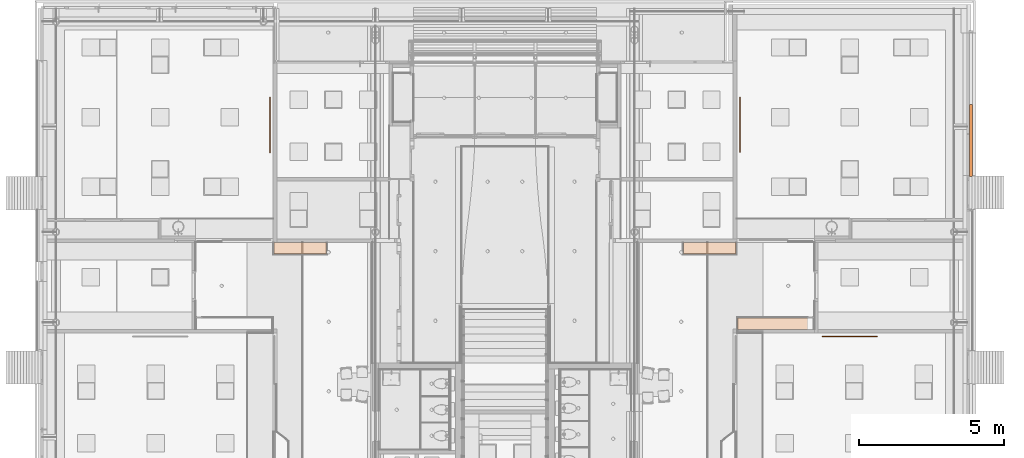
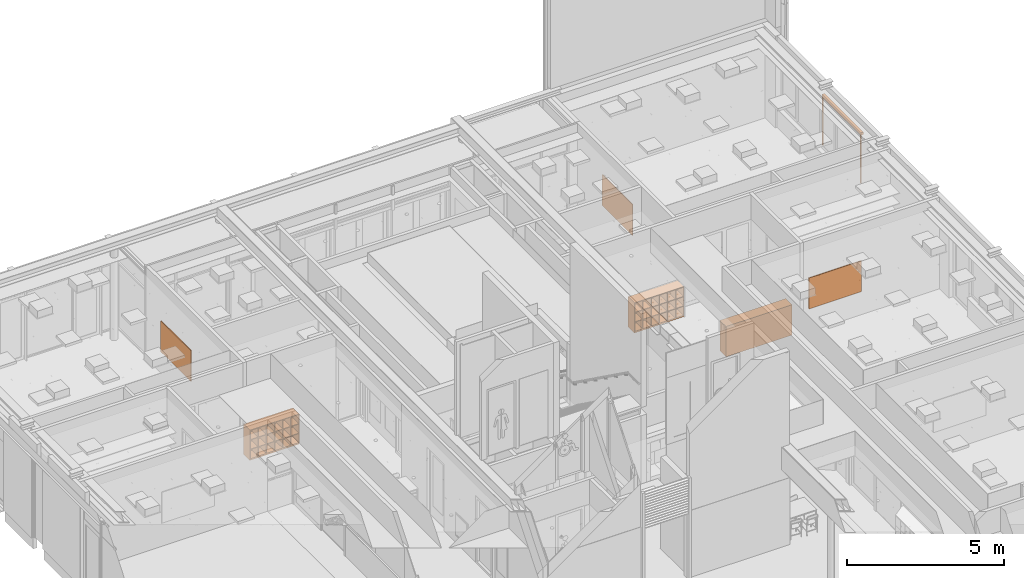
# One storey, part 336 of 347: 7 proxies.
"""IFC2X3 building model written with IfcOpenShell, lengths in millimetres."""

from ifc_helpers import new_model, entity, si_unit, converted_unit, derived_unit, money_unit, direction, frame, origin_with_axes, place, context, subcontext, project, spatial, open_shell, faceted_brep, surface_model, source, transform, mapped, type_object, type_shapes, element, save


model = new_model("IFC2X3")

# Units and contexts
model_context = context("Model", 3, precision=0.01, world=origin_with_axes(), true_north=direction((0.0, 1.0)))
plan_context = context("Plan", 3, precision=0.01, world=origin_with_axes(), true_north=direction((0.0, 1.0)))
body_context = subcontext(model_context, "Body", "Model", "MODEL_VIEW")
ifc_project = project(units=[si_unit("LENGTHUNIT", "METRE", prefix="MILLI"), si_unit("AREAUNIT", "SQUARE_METRE"), si_unit("VOLUMEUNIT", "CUBIC_METRE"), converted_unit("PLANEANGLEUNIT", "DEGREE", entity("IfcPlaneAngleMeasure", 0.0174532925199), si_unit("PLANEANGLEUNIT", "RADIAN"), dimensions=[0, 0, 0, 0, 0, 0, 0]), money_unit("EUR"), converted_unit("TIMEUNIT", "Year", entity("IfcTimeMeasure", 31556926.0), si_unit("TIMEUNIT", "SECOND"), dimensions=[0, 0, 1, 0, 0, 0, 0]), si_unit("MASSUNIT", "GRAM", prefix="KILO"), si_unit("THERMODYNAMICTEMPERATUREUNIT", "DEGREE_CELSIUS"), si_unit("LUMINOUSINTENSITYUNIT", "LUMEN"), si_unit("ENERGYUNIT", "JOULE", prefix="MEGA"), derived_unit("THERMALCONDUCTANCEUNIT", [(si_unit("POWERUNIT", "WATT"), 1), (si_unit("LENGTHUNIT", "METRE"), -1), (si_unit("THERMODYNAMICTEMPERATUREUNIT", "KELVIN"), -1)]), derived_unit("SPECIFICHEATCAPACITYUNIT", [(si_unit("ENERGYUNIT", "JOULE"), 1), (si_unit("MASSUNIT", "GRAM", prefix="KILO"), -1), (si_unit("THERMODYNAMICTEMPERATUREUNIT", "KELVIN"), -1)]), derived_unit("MASSDENSITYUNIT", [(si_unit("MASSUNIT", "GRAM", prefix="KILO"), 1), (si_unit("VOLUMEUNIT", "CUBIC_METRE"), -1)])], contexts=[model_context, plan_context])

# Site, building, storey
site_placement = place(None, origin_with_axes())
site = spatial("IfcSite", under=ifc_project, at=site_placement, Name="Site", CompositionType="ELEMENT")
building_placement = place(site_placement, origin_with_axes())
building = spatial("IfcBuilding", under=site, at=building_placement, Name="Naam gebouw", CompositionType="ELEMENT")
storey_placement = place(building_placement, origin_with_axes())
storey = spatial("IfcBuildingStorey", under=building, at=storey_placement, Name="begane grond", CompositionType="ELEMENT", Elevation=0.0)

# Proxies
building_element_proxy_type_1 = type_object("IfcBuildingElementProxyType", Name="Digitaal bord 25", PredefinedType="NOTDEFINED")
shared_shape_1 = source(origin_with_axes(), body_context, "Body", "SurfaceModel", [
    faceted_brep([(0.0, 0.0, 1000.0), (1930.0, 0.0, 1000.0), (1930.0, -30.0, 1000.0), (0.0, -30.0, 1000.0), (0.0, 0.0, 2185.0), (4.3933982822, 0.0, 2195.60660172), (15.0, 0.0, 2200.0), (1915.0, 0.0, 2200.0), (1925.60660172, 0.0, 2195.60660172), (1930.0, 0.0, 2185.0), (20.0, 0.0, 1025.0), (1910.0, 0.0, 1025.0), (1910.0, 0.0, 2180.0), (20.0, 0.0, 2180.0), (1930.0, -30.0, 2185.0), (1925.60660172, -30.0, 2195.60660172), (1915.0, -30.0, 2200.0), (15.0, -30.0, 2200.0), (4.3933982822, -30.0, 2195.60660172), (0.0, -30.0, 2185.0), (20.0, -30.0, 1025.0), (20.0, -30.0, 2180.0), (1910.0, -30.0, 2180.0), (1910.0, -30.0, 1025.0)], [[[0, 1, 2, 3]], [[0, 4, 5, 6, 7, 8, 9, 1], [10, 11, 12, 13]], [[1, 9, 14, 2]], [[3, 2, 14, 15, 16, 17, 18, 19], [20, 21, 22, 23]], [[4, 0, 3, 19]], [[5, 4, 19, 18]], [[6, 5, 18, 17]], [[7, 6, 17, 16]], [[8, 7, 16, 15]], [[9, 8, 15, 14]], [[11, 10, 20, 23]], [[12, 11, 23, 22]], [[13, 12, 22, 21]], [[10, 13, 21, 20]]]),
    faceted_brep([(20.0, 0.0, 1025.0), (1910.0, 0.0, 1025.0), (1910.0, -29.0, 1025.0), (20.0, -29.0, 1025.0), (20.0, 0.0, 2180.0), (1910.0, 0.0, 2180.0), (1910.0, -29.0, 2180.0), (20.0, -29.0, 2180.0)], [[[0, 1, 2, 3]], [[0, 4, 5, 1]], [[1, 5, 6, 2]], [[3, 2, 6, 7]], [[4, 0, 3, 7]], [[5, 4, 7, 6]]]),
    surface_model("IfcShellBasedSurfaceModel", [(20.0, -30.0, 1025.0), (1910.0, -30.0, 1025.0), (1910.0, -30.0, 2180.0), (20.0, -30.0, 2180.0)], [open_shell([[[0, 1, 2, 3]]])]),
])
type_shapes(building_element_proxy_type_1, [shared_shape_1])
for number, where, z_axis, x_axis, name in (
    (1, (51007.443853, 35737.5, 0.0), (0.0, 0.0, 1.0), (1.0, 0.0, 0.0), "82_DiGi-bord"),
    (2, (31975.0, 43983.7547682, 0.0), (0.0, 0.0, 1.0), (0.0, -1.0, 0.0), "82_DiGi-bord"),
    (3, (48175.0, 42058.8670622, 0.0), (0.0, 0.0, 1.0), (0.0, 1.0, 0.0), "82_DiGi-bord"),
):
    element("IfcBuildingElementProxy", number, at=place(storey_placement, frame(where, z_axis=z_axis, x_axis=x_axis)), inside=storey, type_object=building_element_proxy_type_1, Name=name, context=body_context, shape_type="MappedRepresentation", body=[
        mapped(shared_shape_1, transform((0.0, 0.0, 0.0))),
    ])
building_element_proxy_type_2 = type_object("IfcBuildingElementProxyType", Name="Screen 25 KM", PredefinedType="NOTDEFINED")
shared_shape_2 = source(origin_with_axes(), body_context, "Body", "SurfaceModel", [
    faceted_brep([(0.0, 0.0, 0.0), (0.0, 0.0, 1885.0), (0.0, -28.0, 1885.0), (0.0, -28.0, 0.0), (-38.0, 0.0, 0.0), (-38.0, 0.0, 1885.0), (-38.0, -4.0, 1885.0), (-35.0, -4.0, 1885.0), (-35.0, -3.0, 1885.0), (-3.0, -3.0, 1885.0), (-3.0, -25.0, 1885.0), (-35.0, -25.0, 1885.0), (-35.0, -24.0, 1885.0), (-38.0, -24.0, 1885.0), (-38.0, -28.0, 1885.0), (-38.0, -28.0, 0.0), (-38.0, -24.0, 0.0), (-35.0, -24.0, 0.0), (-35.0, -25.0, 0.0), (-3.0, -25.0, 0.0), (-3.0, -3.0, 0.0), (-35.0, -3.0, 0.0), (-35.0, -4.0, 0.0), (-38.0, -4.0, 0.0)], [[[0, 1, 2, 3]], [[4, 5, 1, 0]], [[1, 5, 6, 7, 8, 9, 10, 11, 12, 13, 14, 2]], [[3, 2, 14, 15]], [[0, 3, 15, 16, 17, 18, 19, 20, 21, 22, 23, 4]], [[23, 6, 5, 4]], [[22, 7, 6, 23]], [[21, 8, 7, 22]], [[20, 9, 8, 21]], [[19, 10, 9, 20]], [[18, 11, 10, 19]], [[17, 12, 11, 18]], [[16, 13, 12, 17]], [[15, 14, 13, 16]]]),
    faceted_brep([(-2475.00000346, 0.0, 0.0), (-2475.00000346, -28.0, 0.0), (-2475.00000346, -28.0, 1885.0), (-2475.00000346, 0.0, 1885.0), (-2437.00000346, 0.0, 0.0), (-2437.00000346, -4.0, 0.0), (-2440.00000346, -4.0, 0.0), (-2440.00000346, -3.0, 0.0), (-2472.00000346, -3.0, 0.0), (-2472.00000346, -25.0, 0.0), (-2440.00000346, -25.0, 0.0), (-2440.00000346, -24.0, 0.0), (-2437.00000346, -24.0, 0.0), (-2437.00000346, -28.0, 0.0), (-2437.00000346, -28.0, 1885.0), (-2437.00000346, -24.0, 1885.0), (-2440.00000346, -24.0, 1885.0), (-2440.00000346, -25.0, 1885.0), (-2472.00000346, -25.0, 1885.0), (-2472.00000346, -3.0, 1885.0), (-2440.00000346, -3.0, 1885.0), (-2440.00000346, -4.0, 1885.0), (-2437.00000346, -4.0, 1885.0), (-2437.00000346, 0.0, 1885.0)], [[[0, 1, 2, 3]], [[0, 4, 5, 6, 7, 8, 9, 10, 11, 12, 13, 1]], [[1, 13, 14, 2]], [[3, 2, 14, 15, 16, 17, 18, 19, 20, 21, 22, 23]], [[4, 0, 3, 23]], [[5, 4, 23, 22]], [[6, 5, 22, 21]], [[7, 6, 21, 20]], [[8, 7, 20, 19]], [[9, 8, 19, 18]], [[10, 9, 18, 17]], [[11, 10, 17, 16]], [[12, 11, 16, 15]], [[13, 12, 15, 14]]]),
    surface_model("IfcShellBasedSurfaceModel", [(0.0, 0.0, 1980.0), (0.0, -95.0, 1980.0), (0.0, -95.0, 1885.0), (0.0, 0.0, 1885.0)], [open_shell([[[0, 1, 2, 3]]])]),
    surface_model("IfcShellBasedSurfaceModel", [(-0.01, 0.0, 1980.0), (-2474.99000346, 0.0, 1980.0), (-2474.99000346, -95.0, 1980.0), (-0.00999999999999, -95.0, 1980.0), (-0.01, 0.0, 1888.0), (-2474.99000346, 0.0, 1888.0), (-2474.99000346, -6.0, 1888.0), (-2474.99000346, -6.0, 1891.0), (-2474.99000346, -3.0, 1891.0), (-2474.99000346, -3.0, 1977.0), (-2474.99000346, -92.0, 1977.0), (-2474.99000346, -92.0, 1888.0), (-2474.99000346, -28.0, 1888.0), (-2474.99000346, -28.0, 1882.0), (-2474.99000346, -31.0, 1882.0), (-2474.99000346, -31.0, 1885.0), (-2474.99000346, -95.0, 1885.0), (-0.01, -95.0, 1885.0), (-0.01, -31.0, 1885.0), (-0.01, -31.0, 1882.0), (-0.01, -28.0, 1882.0), (-0.01, -28.0, 1888.0), (-0.01, -92.0, 1888.0), (-0.00999999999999, -92.0, 1977.0), (-0.01, -3.0, 1977.0), (-0.01, -3.0, 1891.0), (-0.01, -6.0, 1891.0), (-0.01, -6.0, 1888.0)], [open_shell([[[0, 1, 2, 3]], [[4, 5, 1, 0]], [[1, 5, 6, 7, 8, 9, 10, 11, 12, 13, 14, 15, 16, 2]], [[3, 2, 16, 17]], [[0, 3, 17, 18, 19, 20, 21, 22, 23, 24, 25, 26, 27, 4]], [[19, 14, 13, 20]], [[18, 15, 14, 19]], [[17, 16, 15, 18]]])]),
    surface_model("IfcShellBasedSurfaceModel", [(-2474.99000346, 0.0, 1980.0), (-2474.99000346, -95.0, 1980.0), (-2474.99000346, -95.0, 1885.0), (-2474.99000346, 0.0, 1885.0)], [open_shell([[[0, 1, 2, 3]]])]),
])
type_shapes(building_element_proxy_type_2, [shared_shape_2])
proxy_1_placement = place(storey_placement, frame((56108.0000442, 43722.000019, 720.0), z_axis=(0.0, 0.0, 1.0), x_axis=(0.0, 1.0, 0.0)))
element("IfcBuildingElementProxy", 4, at=proxy_1_placement, inside=storey, type_object=building_element_proxy_type_2, Name="_78 garderobe", context=body_context, shape_type="MappedRepresentation", body=[
    mapped(shared_shape_2, transform((0.0, 0.0, 0.0))),
])
building_element_proxy_type_3 = type_object("IfcBuildingElementProxyType", Name="Kast modulair 25", PredefinedType="NOTDEFINED")
shared_shape_3 = source(origin_with_axes(), body_context, "Body", "Brep", [
    faceted_brep([(0.0, 10.0, 0.0), (0.0, 10.0, 50.0), (-1818.0, 10.0, 50.0), (-1818.0, 10.0, 0.0), (0.0, 400.0, 0.0), (0.0, 400.0, 50.0), (-1818.0, 400.0, 50.0), (-1818.0, 400.0, 0.0)], [[[0, 1, 2, 3]], [[4, 5, 1, 0]], [[1, 5, 6, 2]], [[3, 2, 6, 7]], [[0, 3, 7, 4]], [[7, 6, 5, 4]]]),
    faceted_brep([(-18.0, 400.0, 68.0), (-18.0, 382.0, 68.0), (-1800.0, 382.0, 68.0), (-1800.0, 400.0, 68.0), (-18.0, 400.0, 1160.0), (-18.0, 382.0, 1160.0), (-1800.0, 382.0, 1160.0), (-1800.0, 382.0, 790.0), (-1800.0, 382.0, 420.0), (-1800.0, 400.0, 420.0), (-1800.0, 400.0, 790.0), (-1800.0, 400.0, 1160.0)], [[[0, 1, 2, 3]], [[4, 5, 1, 0]], [[1, 5, 6, 7, 8, 2]], [[3, 2, 8, 9]], [[0, 3, 9, 10, 11, 4]], [[11, 6, 5, 4]], [[10, 7, 6, 11]], [[9, 8, 7, 10]]]),
    faceted_brep([(-1818.0, 0.0, 50.0), (-1818.0, 400.0, 50.0), (0.0, 400.0, 50.0), (0.0, 0.0, 50.0), (-1818.0, 0.0, 68.0), (-1818.0, 400.0, 68.0), (0.0, 400.0, 68.0), (0.0, 0.0, 68.0)], [[[0, 1, 2, 3]], [[0, 4, 5, 1]], [[1, 5, 6, 2]], [[2, 6, 7, 3]], [[3, 7, 4, 0]], [[7, 6, 5, 4]]]),
    faceted_brep([(-18.0, 0.0, 68.0), (-18.0, 400.0, 68.0), (0.0, 400.0, 68.0), (0.0, 0.0, 68.0), (-18.0, 0.0, 420.0), (-18.0, 400.0, 420.0), (0.0, 400.0, 420.0), (0.0, 0.0, 420.0)], [[[0, 1, 2, 3]], [[0, 4, 5, 1]], [[1, 5, 6, 2]], [[2, 6, 7, 3]], [[3, 7, 4, 0]], [[7, 6, 5, 4]]]),
    faceted_brep([(-318.0, 0.0, 68.0), (-318.0, 382.0, 68.0), (-300.0, 382.0, 68.0), (-300.0, 0.0, 68.0), (-318.0, 0.0, 420.0), (-318.0, 382.0, 420.0), (-300.0, 382.0, 420.0), (-300.0, 0.0, 420.0)], [[[0, 1, 2, 3]], [[0, 4, 5, 1]], [[1, 5, 6, 2]], [[2, 6, 7, 3]], [[3, 7, 4, 0]], [[7, 6, 5, 4]]]),
    faceted_brep([(-618.0, 0.0, 68.0), (-618.0, 382.0, 68.0), (-600.0, 382.0, 68.0), (-600.0, 0.0, 68.0), (-618.0, 0.0, 420.0), (-618.0, 382.0, 420.0), (-600.0, 382.0, 420.0), (-600.0, 0.0, 420.0)], [[[0, 1, 2, 3]], [[0, 4, 5, 1]], [[1, 5, 6, 2]], [[2, 6, 7, 3]], [[3, 7, 4, 0]], [[7, 6, 5, 4]]]),
    faceted_brep([(-918.0, 0.0, 68.0), (-918.0, 382.0, 68.0), (-900.0, 382.0, 68.0), (-900.0, 0.0, 68.0), (-918.0, 0.0, 420.0), (-918.0, 382.0, 420.0), (-900.0, 382.0, 420.0), (-900.0, 0.0, 420.0)], [[[0, 1, 2, 3]], [[0, 4, 5, 1]], [[1, 5, 6, 2]], [[2, 6, 7, 3]], [[3, 7, 4, 0]], [[7, 6, 5, 4]]]),
    faceted_brep([(-1218.0, 0.0, 68.0), (-1218.0, 382.0, 68.0), (-1200.0, 382.0, 68.0), (-1200.0, 0.0, 68.0), (-1218.0, 0.0, 420.0), (-1218.0, 382.0, 420.0), (-1200.0, 382.0, 420.0), (-1200.0, 0.0, 420.0)], [[[0, 1, 2, 3]], [[0, 4, 5, 1]], [[1, 5, 6, 2]], [[2, 6, 7, 3]], [[3, 7, 4, 0]], [[7, 6, 5, 4]]]),
    faceted_brep([(-1518.0, 0.0, 68.0), (-1518.0, 382.0, 68.0), (-1500.0, 382.0, 68.0), (-1500.0, 0.0, 68.0), (-1518.0, 0.0, 420.0), (-1518.0, 382.0, 420.0), (-1500.0, 382.0, 420.0), (-1500.0, 0.0, 420.0)], [[[0, 1, 2, 3]], [[0, 4, 5, 1]], [[1, 5, 6, 2]], [[2, 6, 7, 3]], [[3, 7, 4, 0]], [[7, 6, 5, 4]]]),
    faceted_brep([(-1818.0, 0.0, 68.0), (-1818.0, 400.0, 68.0), (-1800.0, 400.0, 68.0), (-1800.0, 0.0, 68.0), (-1818.0, 0.0, 420.0), (-1818.0, 400.0, 420.0), (-1800.0, 400.0, 420.0), (-1800.0, 0.0, 420.0)], [[[0, 1, 2, 3]], [[0, 4, 5, 1]], [[1, 5, 6, 2]], [[2, 6, 7, 3]], [[3, 7, 4, 0]], [[7, 6, 5, 4]]]),
    faceted_brep([(-1800.0, 400.0, 420.0), (-1818.0, 400.0, 420.0), (-1818.0, 400.0, 438.0), (-1800.0, 400.0, 438.0), (-1800.0, 382.0, 420.0), (-18.0, 382.0, 420.0), (-18.0, 400.0, 420.0), (0.0, 400.0, 420.0), (0.0, 0.0, 420.0), (-1818.0, 0.0, 420.0), (-1818.0, 0.0, 438.0), (-18.0, 382.0, 438.0), (-1800.0, 382.0, 438.0), (0.0, 0.0, 438.0), (0.0, 400.0, 438.0), (-18.0, 400.0, 438.0)], [[[0, 1, 2, 3]], [[4, 5, 6, 7, 8, 9, 1, 0]], [[1, 9, 10, 2]], [[11, 12, 3, 2, 10, 13, 14, 15]], [[12, 4, 0, 3]], [[11, 5, 4, 12]], [[6, 5, 11, 15]], [[15, 14, 7, 6]], [[8, 7, 14, 13]], [[9, 8, 13, 10]]]),
    faceted_brep([(-1800.0, 400.0, 790.0), (-1818.0, 400.0, 790.0), (-1818.0, 400.0, 808.0), (-1800.0, 400.0, 808.0), (-1800.0, 382.0, 790.0), (-18.0, 382.0, 790.0), (-18.0, 400.0, 790.0), (0.0, 400.0, 790.0), (0.0, 0.0, 790.0), (-1818.0, 0.0, 790.0), (-1818.0, 0.0, 808.0), (-18.0, 382.0, 808.0), (-1800.0, 382.0, 808.0), (0.0, 0.0, 808.0), (0.0, 400.0, 808.0), (-18.0, 400.0, 808.0)], [[[0, 1, 2, 3]], [[4, 5, 6, 7, 8, 9, 1, 0]], [[1, 9, 10, 2]], [[11, 12, 3, 2, 10, 13, 14, 15]], [[12, 4, 0, 3]], [[11, 5, 4, 12]], [[6, 5, 11, 15]], [[15, 14, 7, 6]], [[8, 7, 14, 13]], [[9, 8, 13, 10]]]),
    faceted_brep([(-18.0, 0.0, 438.0), (-18.0, 400.0, 438.0), (0.0, 400.0, 438.0), (0.0, 0.0, 438.0), (-18.0, 0.0, 790.0), (-18.0, 400.0, 790.0), (0.0, 400.0, 790.0), (0.0, 0.0, 790.0)], [[[0, 1, 2, 3]], [[0, 4, 5, 1]], [[1, 5, 6, 2]], [[2, 6, 7, 3]], [[3, 7, 4, 0]], [[7, 6, 5, 4]]]),
    faceted_brep([(-318.0, 0.0, 438.0), (-318.0, 382.0, 438.0), (-300.0, 382.0, 438.0), (-300.0, 0.0, 438.0), (-318.0, 0.0, 790.0), (-318.0, 382.0, 790.0), (-300.0, 382.0, 790.0), (-300.0, 0.0, 790.0)], [[[0, 1, 2, 3]], [[0, 4, 5, 1]], [[1, 5, 6, 2]], [[2, 6, 7, 3]], [[3, 7, 4, 0]], [[7, 6, 5, 4]]]),
    faceted_brep([(-618.0, 0.0, 438.0), (-618.0, 382.0, 438.0), (-600.0, 382.0, 438.0), (-600.0, 0.0, 438.0), (-618.0, 0.0, 790.0), (-618.0, 382.0, 790.0), (-600.0, 382.0, 790.0), (-600.0, 0.0, 790.0)], [[[0, 1, 2, 3]], [[0, 4, 5, 1]], [[1, 5, 6, 2]], [[2, 6, 7, 3]], [[3, 7, 4, 0]], [[7, 6, 5, 4]]]),
    faceted_brep([(-918.0, 0.0, 438.0), (-918.0, 382.0, 438.0), (-900.0, 382.0, 438.0), (-900.0, 0.0, 438.0), (-918.0, 0.0, 790.0), (-918.0, 382.0, 790.0), (-900.0, 382.0, 790.0), (-900.0, 0.0, 790.0)], [[[0, 1, 2, 3]], [[0, 4, 5, 1]], [[1, 5, 6, 2]], [[2, 6, 7, 3]], [[3, 7, 4, 0]], [[7, 6, 5, 4]]]),
    faceted_brep([(-1218.0, 0.0, 438.0), (-1218.0, 382.0, 438.0), (-1200.0, 382.0, 438.0), (-1200.0, 0.0, 438.0), (-1218.0, 0.0, 790.0), (-1218.0, 382.0, 790.0), (-1200.0, 382.0, 790.0), (-1200.0, 0.0, 790.0)], [[[0, 1, 2, 3]], [[0, 4, 5, 1]], [[1, 5, 6, 2]], [[2, 6, 7, 3]], [[3, 7, 4, 0]], [[7, 6, 5, 4]]]),
    faceted_brep([(-1518.0, 0.0, 438.0), (-1518.0, 382.0, 438.0), (-1500.0, 382.0, 438.0), (-1500.0, 0.0, 438.0), (-1518.0, 0.0, 790.0), (-1518.0, 382.0, 790.0), (-1500.0, 382.0, 790.0), (-1500.0, 0.0, 790.0)], [[[0, 1, 2, 3]], [[0, 4, 5, 1]], [[1, 5, 6, 2]], [[2, 6, 7, 3]], [[3, 7, 4, 0]], [[7, 6, 5, 4]]]),
    faceted_brep([(-1818.0, 0.0, 438.0), (-1818.0, 400.0, 438.0), (-1800.0, 400.0, 438.0), (-1800.0, 0.0, 438.0), (-1818.0, 0.0, 790.0), (-1818.0, 400.0, 790.0), (-1800.0, 400.0, 790.0), (-1800.0, 0.0, 790.0)], [[[0, 1, 2, 3]], [[0, 4, 5, 1]], [[1, 5, 6, 2]], [[2, 6, 7, 3]], [[3, 7, 4, 0]], [[7, 6, 5, 4]]]),
    faceted_brep([(0.0, 0.0, 1160.0), (0.0, 0.0, 1178.0), (-1818.0, 0.0, 1178.0), (-1818.0, 0.0, 1160.0), (0.0, 400.0, 1160.0), (0.0, 400.0, 1178.0), (-1818.0, 400.0, 1178.0), (-1818.0, 400.0, 1160.0)], [[[0, 1, 2, 3]], [[4, 5, 1, 0]], [[1, 5, 6, 2]], [[3, 2, 6, 7]], [[0, 3, 7, 4]], [[7, 6, 5, 4]]]),
    faceted_brep([(-18.0, 0.0, 808.0), (-18.0, 400.0, 808.0), (0.0, 400.0, 808.0), (0.0, 0.0, 808.0), (-18.0, 0.0, 1160.0), (-18.0, 400.0, 1160.0), (0.0, 400.0, 1160.0), (0.0, 0.0, 1160.0)], [[[0, 1, 2, 3]], [[0, 4, 5, 1]], [[1, 5, 6, 2]], [[2, 6, 7, 3]], [[3, 7, 4, 0]], [[7, 6, 5, 4]]]),
    faceted_brep([(-318.0, 0.0, 808.0), (-318.0, 382.0, 808.0), (-300.0, 382.0, 808.0), (-300.0, 0.0, 808.0), (-318.0, 0.0, 1160.0), (-318.0, 382.0, 1160.0), (-300.0, 382.0, 1160.0), (-300.0, 0.0, 1160.0)], [[[0, 1, 2, 3]], [[0, 4, 5, 1]], [[1, 5, 6, 2]], [[2, 6, 7, 3]], [[3, 7, 4, 0]], [[7, 6, 5, 4]]]),
    faceted_brep([(-618.0, 0.0, 808.0), (-618.0, 382.0, 808.0), (-600.0, 382.0, 808.0), (-600.0, 0.0, 808.0), (-618.0, 0.0, 1160.0), (-618.0, 382.0, 1160.0), (-600.0, 382.0, 1160.0), (-600.0, 0.0, 1160.0)], [[[0, 1, 2, 3]], [[0, 4, 5, 1]], [[1, 5, 6, 2]], [[2, 6, 7, 3]], [[3, 7, 4, 0]], [[7, 6, 5, 4]]]),
    faceted_brep([(-918.0, 0.0, 808.0), (-918.0, 382.0, 808.0), (-900.0, 382.0, 808.0), (-900.0, 0.0, 808.0), (-918.0, 0.0, 1160.0), (-918.0, 382.0, 1160.0), (-900.0, 382.0, 1160.0), (-900.0, 0.0, 1160.0)], [[[0, 1, 2, 3]], [[0, 4, 5, 1]], [[1, 5, 6, 2]], [[2, 6, 7, 3]], [[3, 7, 4, 0]], [[7, 6, 5, 4]]]),
    faceted_brep([(-1218.0, 0.0, 808.0), (-1218.0, 382.0, 808.0), (-1200.0, 382.0, 808.0), (-1200.0, 0.0, 808.0), (-1218.0, 0.0, 1160.0), (-1218.0, 382.0, 1160.0), (-1200.0, 382.0, 1160.0), (-1200.0, 0.0, 1160.0)], [[[0, 1, 2, 3]], [[0, 4, 5, 1]], [[1, 5, 6, 2]], [[2, 6, 7, 3]], [[3, 7, 4, 0]], [[7, 6, 5, 4]]]),
    faceted_brep([(-1518.0, 0.0, 808.0), (-1518.0, 382.0, 808.0), (-1500.0, 382.0, 808.0), (-1500.0, 0.0, 808.0), (-1518.0, 0.0, 1160.0), (-1518.0, 382.0, 1160.0), (-1500.0, 382.0, 1160.0), (-1500.0, 0.0, 1160.0)], [[[0, 1, 2, 3]], [[0, 4, 5, 1]], [[1, 5, 6, 2]], [[2, 6, 7, 3]], [[3, 7, 4, 0]], [[7, 6, 5, 4]]]),
    faceted_brep([(-1818.0, 0.0, 808.0), (-1818.0, 400.0, 808.0), (-1800.0, 400.0, 808.0), (-1800.0, 0.0, 808.0), (-1818.0, 0.0, 1160.0), (-1818.0, 400.0, 1160.0), (-1800.0, 400.0, 1160.0), (-1800.0, 0.0, 1160.0)], [[[0, 1, 2, 3]], [[0, 4, 5, 1]], [[1, 5, 6, 2]], [[2, 6, 7, 3]], [[3, 7, 4, 0]], [[7, 6, 5, 4]]]),
])
for number, where, z_axis, x_axis, name in (
    (5, (33915.0, 38557.5, 0.0), (0.0, 0.0, 1.0), (1.0, 0.0, 0.0), "72_72 garderobe"),
    (6, (48053.0, 38557.5, 0.0), (0.0, 0.0, 1.0), (1.0, 0.0, 0.0), "72_72 garderobe"),
):
    element("IfcBuildingElementProxy", number, at=place(storey_placement, frame(where, z_axis=z_axis, x_axis=x_axis)), inside=storey, type_object=building_element_proxy_type_3, Name=name, context=body_context, shape_type="MappedRepresentation", body=[
        mapped(shared_shape_3, transform((0.0, 0.0, 0.0))),
    ])
shared_shape_4 = source(origin_with_axes(), body_context, "Body", "Brep", [
    faceted_brep([(0.0, 10.0, 0.0), (0.0, 10.0, 50.0), (-2418.0, 10.0, 50.0), (-2418.0, 10.0, 0.0), (0.0, 400.000014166, 0.0), (0.0, 400.000014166, 50.0), (-2418.0, 400.000014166, 50.0), (-2418.0, 400.000014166, 0.0)], [[[0, 1, 2, 3]], [[4, 5, 1, 0]], [[1, 5, 6, 2]], [[3, 2, 6, 7]], [[0, 3, 7, 4]], [[7, 6, 5, 4]]]),
    faceted_brep([(-18.0, 400.000014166, 68.0), (-18.0, 382.000014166, 68.0), (-2400.0, 382.000014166, 68.0), (-2400.0, 400.000014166, 68.0), (-18.0, 400.000014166, 1160.0), (-18.0, 382.000014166, 1160.0), (-2400.0, 382.000014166, 1160.0), (-2400.0, 382.000014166, 790.0), (-2400.0, 382.000014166, 420.0), (-2400.0, 400.000014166, 420.0), (-2400.0, 400.000014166, 790.0), (-2400.0, 400.000014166, 1160.0)], [[[0, 1, 2, 3]], [[4, 5, 1, 0]], [[1, 5, 6, 7, 8, 2]], [[3, 2, 8, 9]], [[0, 3, 9, 10, 11, 4]], [[11, 6, 5, 4]], [[10, 7, 6, 11]], [[9, 8, 7, 10]]]),
    faceted_brep([(-2418.0, 0.0, 50.0), (-2418.0, 400.000014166, 50.0), (0.0, 400.000014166, 50.0), (0.0, 0.0, 50.0), (-2418.0, 0.0, 68.0), (-2418.0, 400.000014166, 68.0), (0.0, 400.000014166, 68.0), (0.0, 0.0, 68.0)], [[[0, 1, 2, 3]], [[0, 4, 5, 1]], [[1, 5, 6, 2]], [[2, 6, 7, 3]], [[3, 7, 4, 0]], [[7, 6, 5, 4]]]),
    faceted_brep([(-18.0, 0.0, 68.0), (-18.0, 400.000014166, 68.0), (0.0, 400.000014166, 68.0), (0.0, 0.0, 68.0), (-18.0, 0.0, 420.0), (-18.0, 400.000014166, 420.0), (0.0, 400.000014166, 420.0), (0.0, 0.0, 420.0)], [[[0, 1, 2, 3]], [[0, 4, 5, 1]], [[1, 5, 6, 2]], [[2, 6, 7, 3]], [[3, 7, 4, 0]], [[7, 6, 5, 4]]]),
    faceted_brep([(-318.0, 0.0, 68.0), (-318.0, 382.000014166, 68.0), (-300.0, 382.000014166, 68.0), (-300.0, 0.0, 68.0), (-318.0, 0.0, 420.0), (-318.0, 382.000014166, 420.0), (-300.0, 382.000014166, 420.0), (-300.0, 0.0, 420.0)], [[[0, 1, 2, 3]], [[0, 4, 5, 1]], [[1, 5, 6, 2]], [[2, 6, 7, 3]], [[3, 7, 4, 0]], [[7, 6, 5, 4]]]),
    faceted_brep([(-618.0, 0.0, 68.0), (-618.0, 382.000014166, 68.0), (-600.0, 382.000014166, 68.0), (-600.0, 0.0, 68.0), (-618.0, 0.0, 420.0), (-618.0, 382.000014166, 420.0), (-600.0, 382.000014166, 420.0), (-600.0, 0.0, 420.0)], [[[0, 1, 2, 3]], [[0, 4, 5, 1]], [[1, 5, 6, 2]], [[2, 6, 7, 3]], [[3, 7, 4, 0]], [[7, 6, 5, 4]]]),
    faceted_brep([(-918.0, 0.0, 68.0), (-918.0, 382.000014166, 68.0), (-900.0, 382.000014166, 68.0), (-900.0, 0.0, 68.0), (-918.0, 0.0, 420.0), (-918.0, 382.000014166, 420.0), (-900.0, 382.000014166, 420.0), (-900.0, 0.0, 420.0)], [[[0, 1, 2, 3]], [[0, 4, 5, 1]], [[1, 5, 6, 2]], [[2, 6, 7, 3]], [[3, 7, 4, 0]], [[7, 6, 5, 4]]]),
    faceted_brep([(-1218.0, 0.0, 68.0), (-1218.0, 382.000014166, 68.0), (-1200.0, 382.000014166, 68.0), (-1200.0, 0.0, 68.0), (-1218.0, 0.0, 420.0), (-1218.0, 382.000014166, 420.0), (-1200.0, 382.000014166, 420.0), (-1200.0, 0.0, 420.0)], [[[0, 1, 2, 3]], [[0, 4, 5, 1]], [[1, 5, 6, 2]], [[2, 6, 7, 3]], [[3, 7, 4, 0]], [[7, 6, 5, 4]]]),
    faceted_brep([(-1518.0, 0.0, 68.0), (-1518.0, 382.000014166, 68.0), (-1500.0, 382.000014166, 68.0), (-1500.0, 0.0, 68.0), (-1518.0, 0.0, 420.0), (-1518.0, 382.000014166, 420.0), (-1500.0, 382.000014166, 420.0), (-1500.0, 0.0, 420.0)], [[[0, 1, 2, 3]], [[0, 4, 5, 1]], [[1, 5, 6, 2]], [[2, 6, 7, 3]], [[3, 7, 4, 0]], [[7, 6, 5, 4]]]),
    faceted_brep([(-1818.0, 0.0, 68.0), (-1818.0, 382.000014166, 68.0), (-1800.0, 382.000014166, 68.0), (-1800.0, 0.0, 68.0), (-1818.0, 0.0, 420.0), (-1818.0, 382.000014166, 420.0), (-1800.0, 382.000014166, 420.0), (-1800.0, 0.0, 420.0)], [[[0, 1, 2, 3]], [[0, 4, 5, 1]], [[1, 5, 6, 2]], [[2, 6, 7, 3]], [[3, 7, 4, 0]], [[7, 6, 5, 4]]]),
    faceted_brep([(-2118.0, 0.0, 68.0), (-2118.0, 382.000014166, 68.0), (-2100.0, 382.000014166, 68.0), (-2100.0, 0.0, 68.0), (-2118.0, 0.0, 420.0), (-2118.0, 382.000014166, 420.0), (-2100.0, 382.000014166, 420.0), (-2100.0, 0.0, 420.0)], [[[0, 1, 2, 3]], [[0, 4, 5, 1]], [[1, 5, 6, 2]], [[2, 6, 7, 3]], [[3, 7, 4, 0]], [[7, 6, 5, 4]]]),
    faceted_brep([(-2418.0, 0.0, 68.0), (-2418.0, 400.000014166, 68.0), (-2400.0, 400.000014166, 68.0), (-2400.0, 0.0, 68.0), (-2418.0, 0.0, 420.0), (-2418.0, 400.000014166, 420.0), (-2400.0, 400.000014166, 420.0), (-2400.0, 0.0, 420.0)], [[[0, 1, 2, 3]], [[0, 4, 5, 1]], [[1, 5, 6, 2]], [[2, 6, 7, 3]], [[3, 7, 4, 0]], [[7, 6, 5, 4]]]),
    faceted_brep([(-2400.0, 400.000014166, 420.0), (-2418.0, 400.000014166, 420.0), (-2418.0, 400.000014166, 438.0), (-2400.0, 400.000014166, 438.0), (-2400.0, 382.000014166, 420.0), (-18.0, 382.000014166, 420.0), (-18.0, 400.000014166, 420.0), (0.0, 400.000014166, 420.0), (0.0, 0.0, 420.0), (-2418.0, 0.0, 420.0), (-2418.0, 0.0, 438.0), (-18.0, 382.000014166, 438.0), (-2400.0, 382.000014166, 438.0), (0.0, 0.0, 438.0), (0.0, 400.000014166, 438.0), (-18.0, 400.000014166, 438.0)], [[[0, 1, 2, 3]], [[4, 5, 6, 7, 8, 9, 1, 0]], [[1, 9, 10, 2]], [[11, 12, 3, 2, 10, 13, 14, 15]], [[12, 4, 0, 3]], [[11, 5, 4, 12]], [[6, 5, 11, 15]], [[15, 14, 7, 6]], [[8, 7, 14, 13]], [[9, 8, 13, 10]]]),
    faceted_brep([(-2400.0, 400.000014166, 790.0), (-2418.0, 400.000014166, 790.0), (-2418.0, 400.000014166, 808.0), (-2400.0, 400.000014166, 808.0), (-2400.0, 382.000014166, 790.0), (-18.0, 382.000014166, 790.0), (-18.0, 400.000014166, 790.0), (0.0, 400.000014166, 790.0), (0.0, 0.0, 790.0), (-2418.0, 0.0, 790.0), (-2418.0, 0.0, 808.0), (-18.0, 382.000014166, 808.0), (-2400.0, 382.000014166, 808.0), (0.0, 0.0, 808.0), (0.0, 400.000014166, 808.0), (-18.0, 400.000014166, 808.0)], [[[0, 1, 2, 3]], [[4, 5, 6, 7, 8, 9, 1, 0]], [[1, 9, 10, 2]], [[11, 12, 3, 2, 10, 13, 14, 15]], [[12, 4, 0, 3]], [[11, 5, 4, 12]], [[6, 5, 11, 15]], [[15, 14, 7, 6]], [[8, 7, 14, 13]], [[9, 8, 13, 10]]]),
    faceted_brep([(-18.0, 0.0, 438.0), (-18.0, 400.000014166, 438.0), (0.0, 400.000014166, 438.0), (0.0, 0.0, 438.0), (-18.0, 0.0, 790.0), (-18.0, 400.000014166, 790.0), (0.0, 400.000014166, 790.0), (0.0, 0.0, 790.0)], [[[0, 1, 2, 3]], [[0, 4, 5, 1]], [[1, 5, 6, 2]], [[2, 6, 7, 3]], [[3, 7, 4, 0]], [[7, 6, 5, 4]]]),
    faceted_brep([(-318.0, 0.0, 438.0), (-318.0, 382.000014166, 438.0), (-300.0, 382.000014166, 438.0), (-300.0, 0.0, 438.0), (-318.0, 0.0, 790.0), (-318.0, 382.000014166, 790.0), (-300.0, 382.000014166, 790.0), (-300.0, 0.0, 790.0)], [[[0, 1, 2, 3]], [[0, 4, 5, 1]], [[1, 5, 6, 2]], [[2, 6, 7, 3]], [[3, 7, 4, 0]], [[7, 6, 5, 4]]]),
    faceted_brep([(-618.0, 0.0, 438.0), (-618.0, 382.000014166, 438.0), (-600.0, 382.000014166, 438.0), (-600.0, 0.0, 438.0), (-618.0, 0.0, 790.0), (-618.0, 382.000014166, 790.0), (-600.0, 382.000014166, 790.0), (-600.0, 0.0, 790.0)], [[[0, 1, 2, 3]], [[0, 4, 5, 1]], [[1, 5, 6, 2]], [[2, 6, 7, 3]], [[3, 7, 4, 0]], [[7, 6, 5, 4]]]),
    faceted_brep([(-918.0, 0.0, 438.0), (-918.0, 382.000014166, 438.0), (-900.0, 382.000014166, 438.0), (-900.0, 0.0, 438.0), (-918.0, 0.0, 790.0), (-918.0, 382.000014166, 790.0), (-900.0, 382.000014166, 790.0), (-900.0, 0.0, 790.0)], [[[0, 1, 2, 3]], [[0, 4, 5, 1]], [[1, 5, 6, 2]], [[2, 6, 7, 3]], [[3, 7, 4, 0]], [[7, 6, 5, 4]]]),
    faceted_brep([(-1218.0, 0.0, 438.0), (-1218.0, 382.000014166, 438.0), (-1200.0, 382.000014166, 438.0), (-1200.0, 0.0, 438.0), (-1218.0, 0.0, 790.0), (-1218.0, 382.000014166, 790.0), (-1200.0, 382.000014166, 790.0), (-1200.0, 0.0, 790.0)], [[[0, 1, 2, 3]], [[0, 4, 5, 1]], [[1, 5, 6, 2]], [[2, 6, 7, 3]], [[3, 7, 4, 0]], [[7, 6, 5, 4]]]),
    faceted_brep([(-1518.0, 0.0, 438.0), (-1518.0, 382.000014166, 438.0), (-1500.0, 382.000014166, 438.0), (-1500.0, 0.0, 438.0), (-1518.0, 0.0, 790.0), (-1518.0, 382.000014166, 790.0), (-1500.0, 382.000014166, 790.0), (-1500.0, 0.0, 790.0)], [[[0, 1, 2, 3]], [[0, 4, 5, 1]], [[1, 5, 6, 2]], [[2, 6, 7, 3]], [[3, 7, 4, 0]], [[7, 6, 5, 4]]]),
    faceted_brep([(-1818.0, 0.0, 438.0), (-1818.0, 382.000014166, 438.0), (-1800.0, 382.000014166, 438.0), (-1800.0, 0.0, 438.0), (-1818.0, 0.0, 790.0), (-1818.0, 382.000014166, 790.0), (-1800.0, 382.000014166, 790.0), (-1800.0, 0.0, 790.0)], [[[0, 1, 2, 3]], [[0, 4, 5, 1]], [[1, 5, 6, 2]], [[2, 6, 7, 3]], [[3, 7, 4, 0]], [[7, 6, 5, 4]]]),
    faceted_brep([(-2118.0, 0.0, 438.0), (-2118.0, 382.000014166, 438.0), (-2100.0, 382.000014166, 438.0), (-2100.0, 0.0, 438.0), (-2118.0, 0.0, 790.0), (-2118.0, 382.000014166, 790.0), (-2100.0, 382.000014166, 790.0), (-2100.0, 0.0, 790.0)], [[[0, 1, 2, 3]], [[0, 4, 5, 1]], [[1, 5, 6, 2]], [[2, 6, 7, 3]], [[3, 7, 4, 0]], [[7, 6, 5, 4]]]),
    faceted_brep([(-2418.0, 0.0, 438.0), (-2418.0, 400.000014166, 438.0), (-2400.0, 400.000014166, 438.0), (-2400.0, 0.0, 438.0), (-2418.0, 0.0, 790.0), (-2418.0, 400.000014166, 790.0), (-2400.0, 400.000014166, 790.0), (-2400.0, 0.0, 790.0)], [[[0, 1, 2, 3]], [[0, 4, 5, 1]], [[1, 5, 6, 2]], [[2, 6, 7, 3]], [[3, 7, 4, 0]], [[7, 6, 5, 4]]]),
    faceted_brep([(0.0, 0.0, 1160.0), (0.0, 0.0, 1178.0), (-2418.0, 0.0, 1178.0), (-2418.0, 0.0, 1160.0), (0.0, 400.000014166, 1160.0), (0.0, 400.000014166, 1178.0), (-2418.0, 400.000014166, 1178.0), (-2418.0, 400.000014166, 1160.0)], [[[0, 1, 2, 3]], [[4, 5, 1, 0]], [[1, 5, 6, 2]], [[3, 2, 6, 7]], [[0, 3, 7, 4]], [[7, 6, 5, 4]]]),
    faceted_brep([(-18.0, 0.0, 808.0), (-18.0, 400.000014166, 808.0), (0.0, 400.000014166, 808.0), (0.0, 0.0, 808.0), (-18.0, 0.0, 1160.0), (-18.0, 400.000014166, 1160.0), (0.0, 400.000014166, 1160.0), (0.0, 0.0, 1160.0)], [[[0, 1, 2, 3]], [[0, 4, 5, 1]], [[1, 5, 6, 2]], [[2, 6, 7, 3]], [[3, 7, 4, 0]], [[7, 6, 5, 4]]]),
    faceted_brep([(-318.0, 0.0, 808.0), (-318.0, 382.000014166, 808.0), (-300.0, 382.000014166, 808.0), (-300.0, 0.0, 808.0), (-318.0, 0.0, 1160.0), (-318.0, 382.000014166, 1160.0), (-300.0, 382.000014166, 1160.0), (-300.0, 0.0, 1160.0)], [[[0, 1, 2, 3]], [[0, 4, 5, 1]], [[1, 5, 6, 2]], [[2, 6, 7, 3]], [[3, 7, 4, 0]], [[7, 6, 5, 4]]]),
    faceted_brep([(-618.0, 0.0, 808.0), (-618.0, 382.000014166, 808.0), (-600.0, 382.000014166, 808.0), (-600.0, 0.0, 808.0), (-618.0, 0.0, 1160.0), (-618.0, 382.000014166, 1160.0), (-600.0, 382.000014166, 1160.0), (-600.0, 0.0, 1160.0)], [[[0, 1, 2, 3]], [[0, 4, 5, 1]], [[1, 5, 6, 2]], [[2, 6, 7, 3]], [[3, 7, 4, 0]], [[7, 6, 5, 4]]]),
    faceted_brep([(-918.0, 0.0, 808.0), (-918.0, 382.000014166, 808.0), (-900.0, 382.000014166, 808.0), (-900.0, 0.0, 808.0), (-918.0, 0.0, 1160.0), (-918.0, 382.000014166, 1160.0), (-900.0, 382.000014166, 1160.0), (-900.0, 0.0, 1160.0)], [[[0, 1, 2, 3]], [[0, 4, 5, 1]], [[1, 5, 6, 2]], [[2, 6, 7, 3]], [[3, 7, 4, 0]], [[7, 6, 5, 4]]]),
    faceted_brep([(-1218.0, 0.0, 808.0), (-1218.0, 382.000014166, 808.0), (-1200.0, 382.000014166, 808.0), (-1200.0, 0.0, 808.0), (-1218.0, 0.0, 1160.0), (-1218.0, 382.000014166, 1160.0), (-1200.0, 382.000014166, 1160.0), (-1200.0, 0.0, 1160.0)], [[[0, 1, 2, 3]], [[0, 4, 5, 1]], [[1, 5, 6, 2]], [[2, 6, 7, 3]], [[3, 7, 4, 0]], [[7, 6, 5, 4]]]),
    faceted_brep([(-1518.0, 0.0, 808.0), (-1518.0, 382.000014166, 808.0), (-1500.0, 382.000014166, 808.0), (-1500.0, 0.0, 808.0), (-1518.0, 0.0, 1160.0), (-1518.0, 382.000014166, 1160.0), (-1500.0, 382.000014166, 1160.0), (-1500.0, 0.0, 1160.0)], [[[0, 1, 2, 3]], [[0, 4, 5, 1]], [[1, 5, 6, 2]], [[2, 6, 7, 3]], [[3, 7, 4, 0]], [[7, 6, 5, 4]]]),
    faceted_brep([(-1818.0, 0.0, 808.0), (-1818.0, 382.000014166, 808.0), (-1800.0, 382.000014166, 808.0), (-1800.0, 0.0, 808.0), (-1818.0, 0.0, 1160.0), (-1818.0, 382.000014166, 1160.0), (-1800.0, 382.000014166, 1160.0), (-1800.0, 0.0, 1160.0)], [[[0, 1, 2, 3]], [[0, 4, 5, 1]], [[1, 5, 6, 2]], [[2, 6, 7, 3]], [[3, 7, 4, 0]], [[7, 6, 5, 4]]]),
    faceted_brep([(-2118.0, 0.0, 808.0), (-2118.0, 382.000014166, 808.0), (-2100.0, 382.000014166, 808.0), (-2100.0, 0.0, 808.0), (-2118.0, 0.0, 1160.0), (-2118.0, 382.000014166, 1160.0), (-2100.0, 382.000014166, 1160.0), (-2100.0, 0.0, 1160.0)], [[[0, 1, 2, 3]], [[0, 4, 5, 1]], [[1, 5, 6, 2]], [[2, 6, 7, 3]], [[3, 7, 4, 0]], [[7, 6, 5, 4]]]),
    faceted_brep([(-2418.0, 0.0, 808.0), (-2418.0, 400.000014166, 808.0), (-2400.0, 400.000014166, 808.0), (-2400.0, 0.0, 808.0), (-2418.0, 0.0, 1160.0), (-2418.0, 400.000014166, 1160.0), (-2400.0, 400.000014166, 1160.0), (-2400.0, 0.0, 1160.0)], [[[0, 1, 2, 3]], [[0, 4, 5, 1]], [[1, 5, 6, 2]], [[2, 6, 7, 3]], [[3, 7, 4, 0]], [[7, 6, 5, 4]]]),
])
type_shapes(building_element_proxy_type_3, [shared_shape_3, shared_shape_4])
proxy_2_placement = place(storey_placement, frame((48104.0, 36362.5000142, 0.0), z_axis=(0.0, 0.0, 1.0), x_axis=(-1.0, 0.0, 0.0)))
element("IfcBuildingElementProxy", 7, at=proxy_2_placement, inside=storey, type_object=building_element_proxy_type_3, Name="72_72 garderobe", context=body_context, shape_type="MappedRepresentation", body=[
    mapped(shared_shape_4, transform((0.0, 0.0, 0.0))),
])

save(model, "model.ifc")
